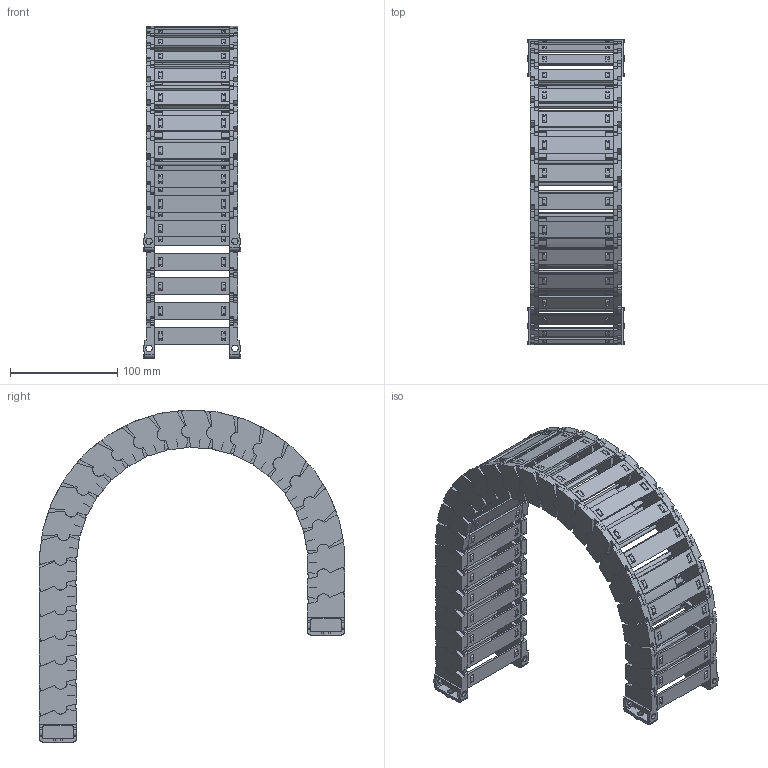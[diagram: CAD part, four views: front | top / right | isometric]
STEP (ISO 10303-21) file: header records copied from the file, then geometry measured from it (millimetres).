
FILE_DESCRIPTION((''),'2;1');
FILE_NAME('JY-25X70-R125_ASM','2022-05-07T10:55:38',('admin'),(''),'CREO PARAMETRIC BY PTC INC, 2021164','CREO PARAMETRIC BY PTC INC, 2021164','');
FILE_SCHEMA(('CONFIG_CONTROL_DESIGN','GEOMETRIC_VALIDATION_PROPERTIES_MIM'));
Length unit declared in the file: millimetre
Products named in the file (11): 25XL-L; 25-35XL-YP; 25XL-R; ASM0001_ASM; 25-LTT-A-L; 25-LTT-A-R; 25XL-LTT-A_ASM; 25-LTT-B-L; 25-LTT-B-R; 25XL-LTT-B_ASM; JY-25X70-R125_ASM
Assembly tree (38 placements, depth 3):
  JY-25X70-R125_ASM
    ASM0001_ASM  x24
      25XL-L
      25-35XL-YP
      25XL-R
    25XL-LTT-A_ASM
      25-LTT-A-L
      25-35XL-YP  x2
      25-LTT-A-R
    25XL-LTT-B_ASM
      25-LTT-B-L
      25-35XL-YP  x2
      25-LTT-B-R
Bounding box: 91.17 x 284.61 x 309.36 mm (x, y, z)
Volume: 475007.1 mm3; surface area: 353236.3 mm2
Topology: 104 solids, 128 shells, 5398 faces, 16134 edges, 10918 vertices
Faces by surface type: plane 3982, cylinder 1368, cone 48
Entity records: 24131 total; most frequent: CARTESIAN_POINT 3132, DIRECTION 3027, ORIENTED_EDGE 2962, EDGE_CURVE 1483, PRESENTATION_STYLE_ASSIGNMENT 1413, STYLED_ITEM 1381, VECTOR 1053, LINE 1053
